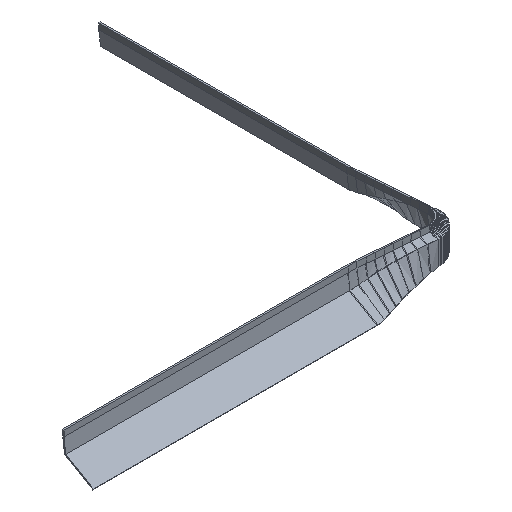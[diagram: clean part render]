
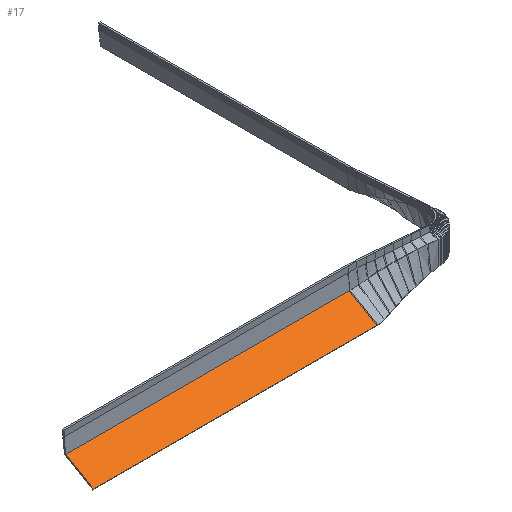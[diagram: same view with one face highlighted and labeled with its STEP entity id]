
A CAD part, isometric view. The second image highlights one B-rep face of the part: STEP entity #17.
In plain terms, the highlighted planar face has unit normal (0, -0.5, 0.866).
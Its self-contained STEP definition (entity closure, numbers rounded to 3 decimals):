
#17 = ADVANCED_FACE('',(#18),#32,.F.);
#18 = FACE_BOUND('',#19,.F.);
#19 = EDGE_LOOP('',(#20,#55,#80,#108));
#20 = ORIENTED_EDGE('',*,*,#21,.T.);
#21 = EDGE_CURVE('',#22,#24,#26,.T.);
#22 = VERTEX_POINT('',#23);
#23 = CARTESIAN_POINT('',(0.15,-162.183,2.389));
#24 = VERTEX_POINT('',#25);
#25 = CARTESIAN_POINT('',(0.15,-149.885,9.489));
#26 = SURFACE_CURVE('',#27,(#31,#43),.PCURVE_S1.);
#27 = LINE('',#28,#29);
#28 = CARTESIAN_POINT('',(0.15,-162.183,2.389));
#29 = VECTOR('',#30,1.);
#30 = DIRECTION('',(0.,0.866,0.5));
#31 = PCURVE('',#32,#37);
#32 = PLANE('',#33);
#33 = AXIS2_PLACEMENT_3D('',#34,#35,#36);
#34 = CARTESIAN_POINT('',(126.4,-162.183,2.389));
#35 = DIRECTION('',(0.,0.5,-0.866));
#36 = DIRECTION('',(0.,0.866,0.5));
#37 = DEFINITIONAL_REPRESENTATION('',(#38),#42);
#38 = LINE('',#39,#40);
#39 = CARTESIAN_POINT('',(0.,-126.25));
#40 = VECTOR('',#41,1.);
#41 = DIRECTION('',(1.,0.));
#42 = ( GEOMETRIC_REPRESENTATION_CONTEXT(2) 
PARAMETRIC_REPRESENTATION_CONTEXT() REPRESENTATION_CONTEXT('2D SPACE',''
  ) );
#43 = PCURVE('',#44,#49);
#44 = PLANE('',#45);
#45 = AXIS2_PLACEMENT_3D('',#46,#47,#48);
#46 = CARTESIAN_POINT('',(0.15,-162.183,2.389));
#47 = DIRECTION('',(-1.,0.,0.));
#48 = DIRECTION('',(0.,0.645,0.764));
#49 = DEFINITIONAL_REPRESENTATION('',(#50),#54);
#50 = LINE('',#51,#52);
#51 = CARTESIAN_POINT('',(0.,0.));
#52 = VECTOR('',#53,1.);
#53 = DIRECTION('',(0.941,0.339));
#54 = ( GEOMETRIC_REPRESENTATION_CONTEXT(2) 
PARAMETRIC_REPRESENTATION_CONTEXT() REPRESENTATION_CONTEXT('2D SPACE',''
  ) );
#55 = ORIENTED_EDGE('',*,*,#56,.T.);
#56 = EDGE_CURVE('',#24,#57,#59,.T.);
#57 = VERTEX_POINT('',#58);
#58 = CARTESIAN_POINT('',(126.4,-149.885,9.489));
#59 = SURFACE_CURVE('',#60,(#63,#69),.PCURVE_S1.);
#60 = B_SPLINE_CURVE_WITH_KNOTS('',1,(#61,#62),.UNSPECIFIED.,.F.,.F.,(2,
    2),(0.,1.),.PIECEWISE_BEZIER_KNOTS.);
#61 = CARTESIAN_POINT('',(0.15,-149.885,9.489));
#62 = CARTESIAN_POINT('',(126.4,-149.885,9.489));
#63 = PCURVE('',#32,#64);
#64 = DEFINITIONAL_REPRESENTATION('',(#65),#68);
#65 = B_SPLINE_CURVE_WITH_KNOTS('',1,(#66,#67),.UNSPECIFIED.,.F.,.F.,(2,
    2),(0.,1.),.PIECEWISE_BEZIER_KNOTS.);
#66 = CARTESIAN_POINT('',(14.2,-126.25));
#67 = CARTESIAN_POINT('',(14.2,0.));
#68 = ( GEOMETRIC_REPRESENTATION_CONTEXT(2) 
PARAMETRIC_REPRESENTATION_CONTEXT() REPRESENTATION_CONTEXT('2D SPACE',''
  ) );
#69 = PCURVE('',#70,#75);
#70 = PLANE('',#71);
#71 = AXIS2_PLACEMENT_3D('',#72,#73,#74);
#72 = CARTESIAN_POINT('',(126.4,-149.885,9.489));
#73 = DIRECTION('',(0.,0.993,-0.12));
#74 = DIRECTION('',(0.,0.12,0.993));
#75 = DEFINITIONAL_REPRESENTATION('',(#76),#79);
#76 = B_SPLINE_CURVE_WITH_KNOTS('',1,(#77,#78),.UNSPECIFIED.,.F.,.F.,(2,
    2),(0.,1.),.PIECEWISE_BEZIER_KNOTS.);
#77 = CARTESIAN_POINT('',(0.,-126.25));
#78 = CARTESIAN_POINT('',(0.,0.));
#79 = ( GEOMETRIC_REPRESENTATION_CONTEXT(2) 
PARAMETRIC_REPRESENTATION_CONTEXT() REPRESENTATION_CONTEXT('2D SPACE',''
  ) );
#80 = ORIENTED_EDGE('',*,*,#81,.F.);
#81 = EDGE_CURVE('',#82,#57,#84,.T.);
#82 = VERTEX_POINT('',#83);
#83 = CARTESIAN_POINT('',(126.4,-162.183,2.389));
#84 = SURFACE_CURVE('',#85,(#89,#96),.PCURVE_S1.);
#85 = LINE('',#86,#87);
#86 = CARTESIAN_POINT('',(126.4,-162.183,2.389));
#87 = VECTOR('',#88,1.);
#88 = DIRECTION('',(0.,0.866,0.5));
#89 = PCURVE('',#32,#90);
#90 = DEFINITIONAL_REPRESENTATION('',(#91),#95);
#91 = LINE('',#92,#93);
#92 = CARTESIAN_POINT('',(0.,0.));
#93 = VECTOR('',#94,1.);
#94 = DIRECTION('',(1.,0.));
#95 = ( GEOMETRIC_REPRESENTATION_CONTEXT(2) 
PARAMETRIC_REPRESENTATION_CONTEXT() REPRESENTATION_CONTEXT('2D SPACE',''
  ) );
#96 = PCURVE('',#97,#102);
#97 = B_SPLINE_SURFACE_WITH_KNOTS('',1,1,(
    (#98,#99)
    ,(#100,#101
    )),.UNSPECIFIED.,.F.,.F.,.F.,(2,2),(2,2),(0.,14.2),(0.,1.),
  .PIECEWISE_BEZIER_KNOTS.);
#98 = CARTESIAN_POINT('',(126.4,-162.183,2.389));
#99 = CARTESIAN_POINT('',(130.133,-161.452,2.297
    ));
#100 = CARTESIAN_POINT('',(126.4,-149.885,9.489));
#101 = CARTESIAN_POINT('',(130.133,-150.086,
    9.964));
#102 = DEFINITIONAL_REPRESENTATION('',(#103),#107);
#103 = LINE('',#104,#105);
#104 = CARTESIAN_POINT('',(0.,0.));
#105 = VECTOR('',#106,1.);
#106 = DIRECTION('',(1.,0.));
#107 = ( GEOMETRIC_REPRESENTATION_CONTEXT(2) 
PARAMETRIC_REPRESENTATION_CONTEXT() REPRESENTATION_CONTEXT('2D SPACE',''
  ) );
#108 = ORIENTED_EDGE('',*,*,#109,.F.);
#109 = EDGE_CURVE('',#22,#82,#110,.T.);
#110 = SURFACE_CURVE('',#111,(#114,#120),.PCURVE_S1.);
#111 = B_SPLINE_CURVE_WITH_KNOTS('',1,(#112,#113),.UNSPECIFIED.,.F.,.F.,
  (2,2),(0.,1.),.PIECEWISE_BEZIER_KNOTS.);
#112 = CARTESIAN_POINT('',(0.15,-162.183,2.389));
#113 = CARTESIAN_POINT('',(126.4,-162.183,2.389));
#114 = PCURVE('',#32,#115);
#115 = DEFINITIONAL_REPRESENTATION('',(#116),#119);
#116 = B_SPLINE_CURVE_WITH_KNOTS('',1,(#117,#118),.UNSPECIFIED.,.F.,.F.,
  (2,2),(0.,1.),.PIECEWISE_BEZIER_KNOTS.);
#117 = CARTESIAN_POINT('',(0.,-126.25));
#118 = CARTESIAN_POINT('',(0.,0.));
#119 = ( GEOMETRIC_REPRESENTATION_CONTEXT(2) 
PARAMETRIC_REPRESENTATION_CONTEXT() REPRESENTATION_CONTEXT('2D SPACE',''
  ) );
#120 = PCURVE('',#121,#126);
#121 = PLANE('',#122);
#122 = AXIS2_PLACEMENT_3D('',#123,#124,#125);
#123 = CARTESIAN_POINT('',(126.4,-161.883,1.869));
#124 = DIRECTION('',(-0.,0.866,0.5));
#125 = DIRECTION('',(0.,-0.5,0.866));
#126 = DEFINITIONAL_REPRESENTATION('',(#127),#130);
#127 = B_SPLINE_CURVE_WITH_KNOTS('',1,(#128,#129),.UNSPECIFIED.,.F.,.F.,
  (2,2),(0.,1.),.PIECEWISE_BEZIER_KNOTS.);
#128 = CARTESIAN_POINT('',(0.6,-126.25));
#129 = CARTESIAN_POINT('',(0.6,0.));
#130 = ( GEOMETRIC_REPRESENTATION_CONTEXT(2) 
PARAMETRIC_REPRESENTATION_CONTEXT() REPRESENTATION_CONTEXT('2D SPACE',''
  ) );
